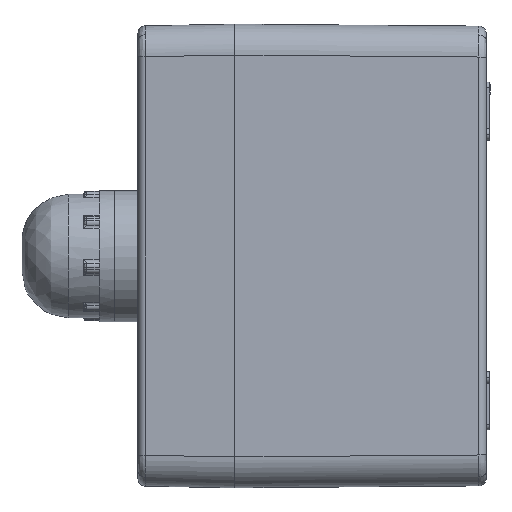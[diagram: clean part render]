
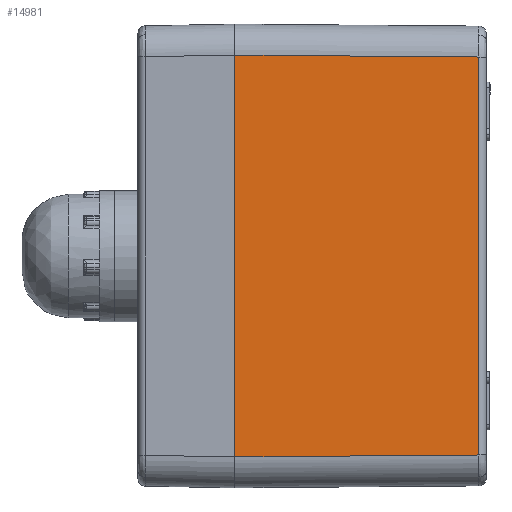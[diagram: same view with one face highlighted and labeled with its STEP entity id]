
A CAD part, left-side view. The second image highlights one B-rep face of the part: STEP entity #14981.
In plain terms, the highlighted planar face has unit normal (-1, -0.008, 0).
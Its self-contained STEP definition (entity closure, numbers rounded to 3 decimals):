
#425=PLANE('',#16282);
#732=LINE('',#24546,#1446);
#779=LINE('',#25261,#1493);
#780=LINE('',#25262,#1494);
#781=LINE('',#25263,#1495);
#1446=VECTOR('',#18588,103.969);
#1493=VECTOR('',#18695,63.02);
#1494=VECTOR('',#18696,102.979);
#1495=VECTOR('',#18697,63.02);
#3252=FACE_OUTER_BOUND('',#4336,.T.);
#4336=EDGE_LOOP('',(#10576,#10577,#10578,#10579));
#6496=VERTEX_POINT('',#23333);
#6669=VERTEX_POINT('',#24543);
#6670=VERTEX_POINT('',#24545);
#6712=VERTEX_POINT('',#25260);
#8124=EDGE_CURVE('',#6670,#6669,#732,.T.);
#8197=EDGE_CURVE('',#6669,#6712,#779,.T.);
#8198=EDGE_CURVE('',#6712,#6496,#780,.T.);
#8199=EDGE_CURVE('',#6496,#6670,#781,.T.);
#10576=ORIENTED_EDGE('',*,*,#8197,.T.);
#10577=ORIENTED_EDGE('',*,*,#8198,.T.);
#10578=ORIENTED_EDGE('',*,*,#8199,.T.);
#10579=ORIENTED_EDGE('',*,*,#8124,.T.);
#14981=ADVANCED_FACE('',(#3252),#425,.T.);
#16282=AXIS2_PLACEMENT_3D('',#25259,#18693,#18694);
#18588=DIRECTION('',(0.,0.,-1.));
#18693=DIRECTION('center_axis',(-1.,-0.008,
0.));
#18694=DIRECTION('ref_axis',(0.008,-1.,0.));
#18695=DIRECTION('',(0.008,-1.,0.008));
#18696=DIRECTION('',(0.,0.,1.));
#18697=DIRECTION('',(-0.008,1.,0.008));
#23333=CARTESIAN_POINT('',(-60.489,-63.016,51.49));
#24543=CARTESIAN_POINT('',(-60.984,0.,-51.985));
#24545=CARTESIAN_POINT('',(-60.984,0.,51.985));
#24546=CARTESIAN_POINT('',(-60.984,0.,-60.));
#25259=CARTESIAN_POINT('Origin',(-61.,2.,-60.));
#25260=CARTESIAN_POINT('',(-60.489,-63.016,-51.49));
#25261=CARTESIAN_POINT('',(-61.,2.063,-52.001));
#25262=CARTESIAN_POINT('',(-60.489,-63.016,51.474));
#25263=CARTESIAN_POINT('',(-60.993,1.12,51.993));
